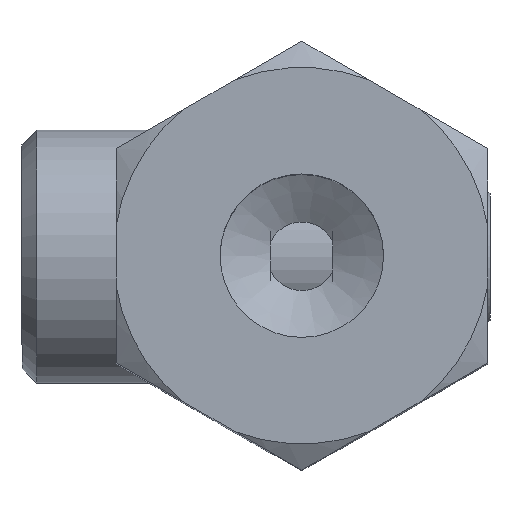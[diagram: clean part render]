
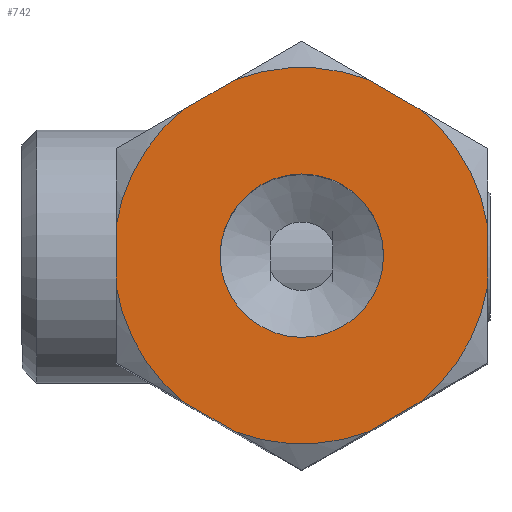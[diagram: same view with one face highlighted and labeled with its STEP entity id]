
A CAD part, top view. The second image highlights one B-rep face of the part: STEP entity #742.
In plain terms, the highlighted planar face has unit normal (0, 0, 1).
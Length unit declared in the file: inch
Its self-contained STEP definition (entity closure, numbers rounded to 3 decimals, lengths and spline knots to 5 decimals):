
#47=FACE_BOUND('',#258,.T.);
#63=LINE('',#1177,#111);
#64=LINE('',#1179,#112);
#71=LINE('',#1230,#119);
#75=LINE('',#1239,#123);
#80=LINE('',#1259,#128);
#87=LINE('',#1294,#135);
#111=VECTOR('',#914,0.3937);
#112=VECTOR('',#917,0.3937);
#119=VECTOR('',#954,0.3937);
#123=VECTOR('',#962,0.3937);
#128=VECTOR('',#985,0.3937);
#135=VECTOR('',#1022,0.3937);
#167=PLANE('',#853);
#206=FACE_OUTER_BOUND('',#257,.T.);
#257=EDGE_LOOP('',(#644,#645,#646,#647,#648,#649,#650,#651,#652,#653,#654,
#655));
#258=EDGE_LOOP('',(#656));
#279=CIRCLE('',#794,0.38);
#280=CIRCLE('',#796,0.38);
#281=CIRCLE('',#798,0.38);
#282=CIRCLE('',#800,0.38);
#283=CIRCLE('',#802,0.38);
#284=CIRCLE('',#804,0.38);
#306=CIRCLE('',#852,0.165);
#327=VERTEX_POINT('',#1100);
#329=VERTEX_POINT('',#1105);
#330=VERTEX_POINT('',#1111);
#332=VERTEX_POINT('',#1116);
#333=VERTEX_POINT('',#1122);
#335=VERTEX_POINT('',#1127);
#336=VERTEX_POINT('',#1133);
#338=VERTEX_POINT('',#1138);
#339=VERTEX_POINT('',#1144);
#341=VERTEX_POINT('',#1149);
#342=VERTEX_POINT('',#1155);
#344=VERTEX_POINT('',#1160);
#380=VERTEX_POINT('',#1299);
#400=EDGE_CURVE('',#329,#327,#279,.T.);
#403=EDGE_CURVE('',#332,#330,#280,.T.);
#406=EDGE_CURVE('',#335,#333,#281,.T.);
#409=EDGE_CURVE('',#338,#336,#282,.T.);
#412=EDGE_CURVE('',#341,#339,#283,.T.);
#415=EDGE_CURVE('',#344,#342,#284,.T.);
#423=EDGE_CURVE('',#336,#335,#63,.T.);
#424=EDGE_CURVE('',#339,#344,#64,.T.);
#443=EDGE_CURVE('',#333,#332,#71,.T.);
#448=EDGE_CURVE('',#330,#329,#75,.T.);
#459=EDGE_CURVE('',#342,#338,#80,.T.);
#474=EDGE_CURVE('',#327,#341,#87,.T.);
#476=EDGE_CURVE('',#380,#380,#306,.T.);
#644=ORIENTED_EDGE('',*,*,#415,.T.);
#645=ORIENTED_EDGE('',*,*,#459,.T.);
#646=ORIENTED_EDGE('',*,*,#409,.T.);
#647=ORIENTED_EDGE('',*,*,#423,.T.);
#648=ORIENTED_EDGE('',*,*,#406,.T.);
#649=ORIENTED_EDGE('',*,*,#443,.T.);
#650=ORIENTED_EDGE('',*,*,#403,.T.);
#651=ORIENTED_EDGE('',*,*,#448,.T.);
#652=ORIENTED_EDGE('',*,*,#400,.T.);
#653=ORIENTED_EDGE('',*,*,#474,.T.);
#654=ORIENTED_EDGE('',*,*,#412,.T.);
#655=ORIENTED_EDGE('',*,*,#424,.T.);
#656=ORIENTED_EDGE('',*,*,#476,.T.);
#742=ADVANCED_FACE('',(#206,#47),#167,.T.);
#794=AXIS2_PLACEMENT_3D('',#1106,#883,#884);
#796=AXIS2_PLACEMENT_3D('',#1117,#887,#888);
#798=AXIS2_PLACEMENT_3D('',#1128,#891,#892);
#800=AXIS2_PLACEMENT_3D('',#1139,#895,#896);
#802=AXIS2_PLACEMENT_3D('',#1150,#899,#900);
#804=AXIS2_PLACEMENT_3D('',#1161,#903,#904);
#852=AXIS2_PLACEMENT_3D('',#1300,#1029,#1030);
#853=AXIS2_PLACEMENT_3D('',#1301,#1031,#1032);
#883=DIRECTION('center_axis',(0.,0.,1.));
#884=DIRECTION('ref_axis',(0.,-1.,0.));
#887=DIRECTION('center_axis',(0.,0.,1.));
#888=DIRECTION('ref_axis',(0.,-1.,0.));
#891=DIRECTION('center_axis',(0.,0.,1.));
#892=DIRECTION('ref_axis',(0.,-1.,0.));
#895=DIRECTION('center_axis',(0.,0.,1.));
#896=DIRECTION('ref_axis',(0.,-1.,0.));
#899=DIRECTION('center_axis',(0.,0.,1.));
#900=DIRECTION('ref_axis',(0.,-1.,0.));
#903=DIRECTION('center_axis',(0.,0.,1.));
#904=DIRECTION('ref_axis',(0.,-1.,0.));
#914=DIRECTION('',(0.866,0.5,0.));
#917=DIRECTION('',(0.,-1.,0.));
#954=DIRECTION('',(0.,1.,0.));
#962=DIRECTION('',(-0.866,0.5,0.));
#985=DIRECTION('',(0.866,-0.5,0.));
#1022=DIRECTION('',(-0.866,-0.5,0.));
#1029=DIRECTION('center_axis',(0.,0.,-1.));
#1030=DIRECTION('ref_axis',(1.,0.,0.));
#1031=DIRECTION('center_axis',(0.,0.,1.));
#1032=DIRECTION('ref_axis',(1.,0.,0.));
#1100=CARTESIAN_POINT('',(-0.24379,0.75164,1.75));
#1105=CARTESIAN_POINT('',(0.02479,0.75164,1.75));
#1106=CARTESIAN_POINT('Origin',(-0.1095,0.39616,1.75));
#1111=CARTESIAN_POINT('',(0.13121,0.6902,1.75));
#1116=CARTESIAN_POINT('',(0.2655,0.4576,1.75));
#1117=CARTESIAN_POINT('Origin',(-0.1095,0.39616,1.75));
#1122=CARTESIAN_POINT('',(0.2655,0.33472,1.75));
#1127=CARTESIAN_POINT('',(0.13121,0.10212,1.75));
#1128=CARTESIAN_POINT('Origin',(-0.1095,0.39616,1.75));
#1133=CARTESIAN_POINT('',(0.02479,0.04068,1.75));
#1138=CARTESIAN_POINT('',(-0.24379,0.04068,1.75));
#1139=CARTESIAN_POINT('Origin',(-0.1095,0.39616,1.75));
#1144=CARTESIAN_POINT('',(-0.4845,0.4576,1.75));
#1149=CARTESIAN_POINT('',(-0.35021,0.6902,1.75));
#1150=CARTESIAN_POINT('Origin',(-0.1095,0.39616,1.75));
#1155=CARTESIAN_POINT('',(-0.35021,0.10212,1.75));
#1160=CARTESIAN_POINT('',(-0.4845,0.33472,1.75));
#1161=CARTESIAN_POINT('Origin',(-0.1095,0.39616,1.75));
#1177=CARTESIAN_POINT('',(0.2655,0.17966,1.75));
#1179=CARTESIAN_POINT('',(-0.4845,0.17966,1.75));
#1230=CARTESIAN_POINT('',(0.2655,0.61267,1.75));
#1239=CARTESIAN_POINT('',(-0.1095,0.82917,1.75));
#1259=CARTESIAN_POINT('',(-0.1095,-0.03685,1.75));
#1294=CARTESIAN_POINT('',(-0.4845,0.61267,1.75));
#1299=CARTESIAN_POINT('',(0.0555,0.39616,1.75));
#1300=CARTESIAN_POINT('Origin',(-0.1095,0.39616,1.75));
#1301=CARTESIAN_POINT('Origin',(-0.1095,0.39616,1.75));
